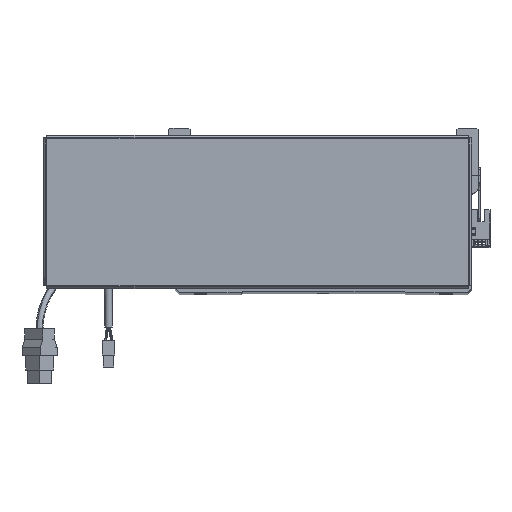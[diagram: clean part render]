
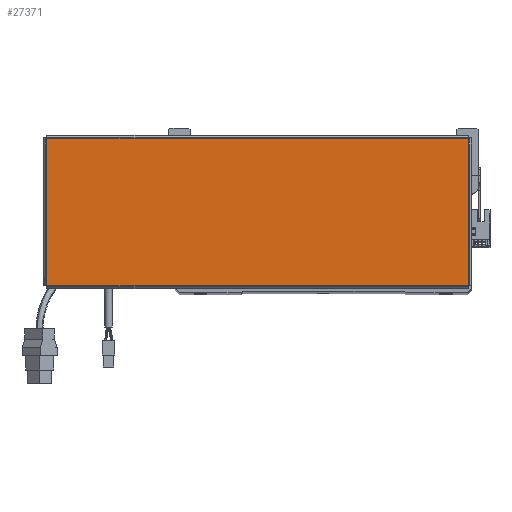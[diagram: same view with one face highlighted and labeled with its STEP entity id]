
A CAD part, top view. The second image highlights one B-rep face of the part: STEP entity #27371.
In plain terms, the highlighted planar face has unit normal (0, 0, 1).
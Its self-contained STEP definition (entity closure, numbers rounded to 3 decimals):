
#3033 = DIRECTION ( 'NONE',  ( 0., -1., 0. ) ) ;
#7394 = VECTOR ( 'NONE', #3033, 1000. ) ;
#7948 = VERTEX_POINT ( 'NONE', #58838 ) ;
#8162 = DIRECTION ( 'NONE',  ( 1., 0., 0. ) ) ;
#14399 = DIRECTION ( 'NONE',  ( 1., 0., 0. ) ) ;
#14441 = DIRECTION ( 'NONE',  ( -1., 0., 0. ) ) ;
#14831 = ORIENTED_EDGE ( 'NONE', *, *, #57977, .T. ) ;
#16414 = LINE ( 'NONE', #43966, #7394 ) ;
#19209 = PLANE ( 'NONE',  #45049 ) ;
#19446 = VECTOR ( 'NONE', #8162, 1000. ) ;
#21927 = LINE ( 'NONE', #42919, #19446 ) ;
#22148 = EDGE_CURVE ( 'NONE', #49672, #7948, #48334, .T. ) ;
#23213 = EDGE_LOOP ( 'NONE', ( #14831, #51833, #67224, #52714 ) ) ;
#23274 = FACE_OUTER_BOUND ( 'NONE', #23213, .T. ) ;
#23316 = VERTEX_POINT ( 'NONE', #36058 ) ;
#24023 = CARTESIAN_POINT ( 'NONE',  ( 156.543, 54.763, 0. ) ) ;
#24571 = CARTESIAN_POINT ( 'NONE',  ( 156.513, -54.763, 0. ) ) ;
#25821 = DIRECTION ( 'NONE',  ( 0., 1., 0. ) ) ;
#26647 = LINE ( 'NONE', #41362, #30740 ) ;
#27371 = ADVANCED_FACE ( 'NONE', ( #23274 ), #19209, .T. ) ;
#30740 = VECTOR ( 'NONE', #25821, 1000. ) ;
#30752 = CARTESIAN_POINT ( 'NONE',  ( 156.513, 54.763, 0. ) ) ;
#34962 = DIRECTION ( 'NONE',  ( 0., 0., 1. ) ) ;
#36058 = CARTESIAN_POINT ( 'NONE',  ( -156.513, -54.763, 0. ) ) ;
#39370 = VERTEX_POINT ( 'NONE', #24571 ) ;
#41362 = CARTESIAN_POINT ( 'NONE',  ( 156.513, -54.793, 0. ) ) ;
#42919 = CARTESIAN_POINT ( 'NONE',  ( -156.543, -54.763, 0. ) ) ;
#43375 = VECTOR ( 'NONE', #14441, 1000. ) ;
#43966 = CARTESIAN_POINT ( 'NONE',  ( -156.513, 54.793, 0. ) ) ;
#45049 = AXIS2_PLACEMENT_3D ( 'NONE', #66361, #34962, #14399 ) ;
#45973 = EDGE_CURVE ( 'NONE', #7948, #23316, #16414, .T. ) ;
#48334 = LINE ( 'NONE', #24023, #43375 ) ;
#49672 = VERTEX_POINT ( 'NONE', #30752 ) ;
#51833 = ORIENTED_EDGE ( 'NONE', *, *, #60388, .T. ) ;
#52714 = ORIENTED_EDGE ( 'NONE', *, *, #45973, .T. ) ;
#57977 = EDGE_CURVE ( 'NONE', #23316, #39370, #21927, .T. ) ;
#58838 = CARTESIAN_POINT ( 'NONE',  ( -156.513, 54.763, 0. ) ) ;
#60388 = EDGE_CURVE ( 'NONE', #39370, #49672, #26647, .T. ) ;
#66361 = CARTESIAN_POINT ( 'NONE',  ( 0., 0., 0. ) ) ;
#67224 = ORIENTED_EDGE ( 'NONE', *, *, #22148, .T. ) ;
